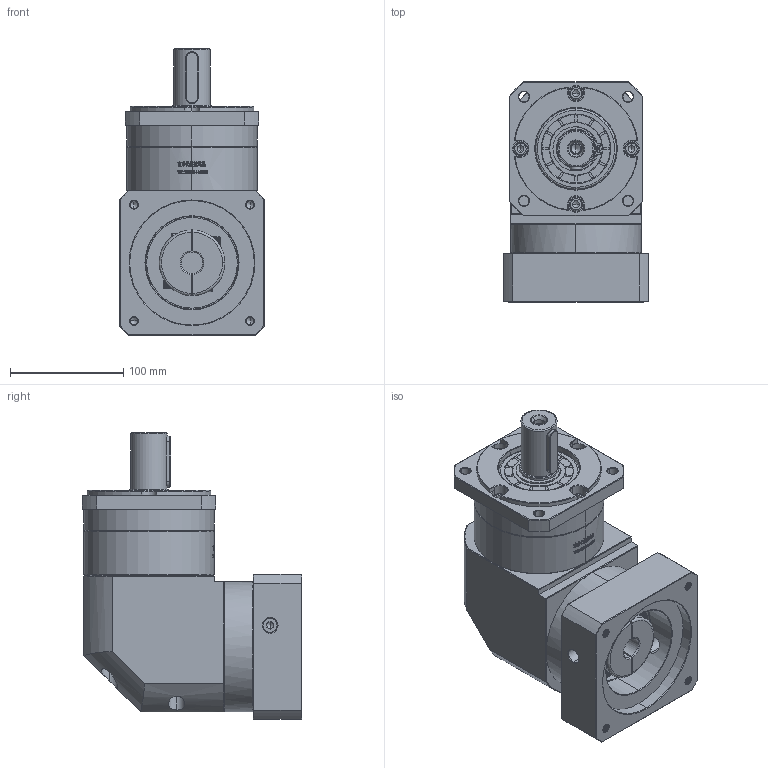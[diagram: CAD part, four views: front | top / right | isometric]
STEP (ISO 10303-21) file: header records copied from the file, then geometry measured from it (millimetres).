
FILE_DESCRIPTION (( 'STEP AP214' ), '1' );
FILE_NAME ('ZFR120A-D32-L1-19-110-145-M8.step', '2023-03-08T08:23:25', ( '' ), ( '' ), 'SwSTEP 2.0', 'SolidWorks 2016', '' );
FILE_SCHEMA (( 'AUTOMOTIVE_DESIGN' ));
Length unit declared in the file: millimetre
Products named in the file (1): ZFR120A-D32-L1-19-110-145-M8
Bounding box: 128 x 193.9 x 253 mm (x, y, z)
Volume: 2995083.7 mm3; surface area: 252688.4 mm2
Topology: 6 solids, 6 shells, 2870 faces, 7661 edges, 4936 vertices
Faces by surface type: plane 1484, bspline 607, cylinder 434, cone 337, torus 8
Entity records: 158058 total; most frequent: CARTESIAN_POINT 60801, ORIENTED_EDGE 15262, DIRECTION 11092, EDGE_CURVE 7631, VERTEX_POINT 4936, LINE 4748, VECTOR 4748, AXIS2_PLACEMENT_3D 3172
